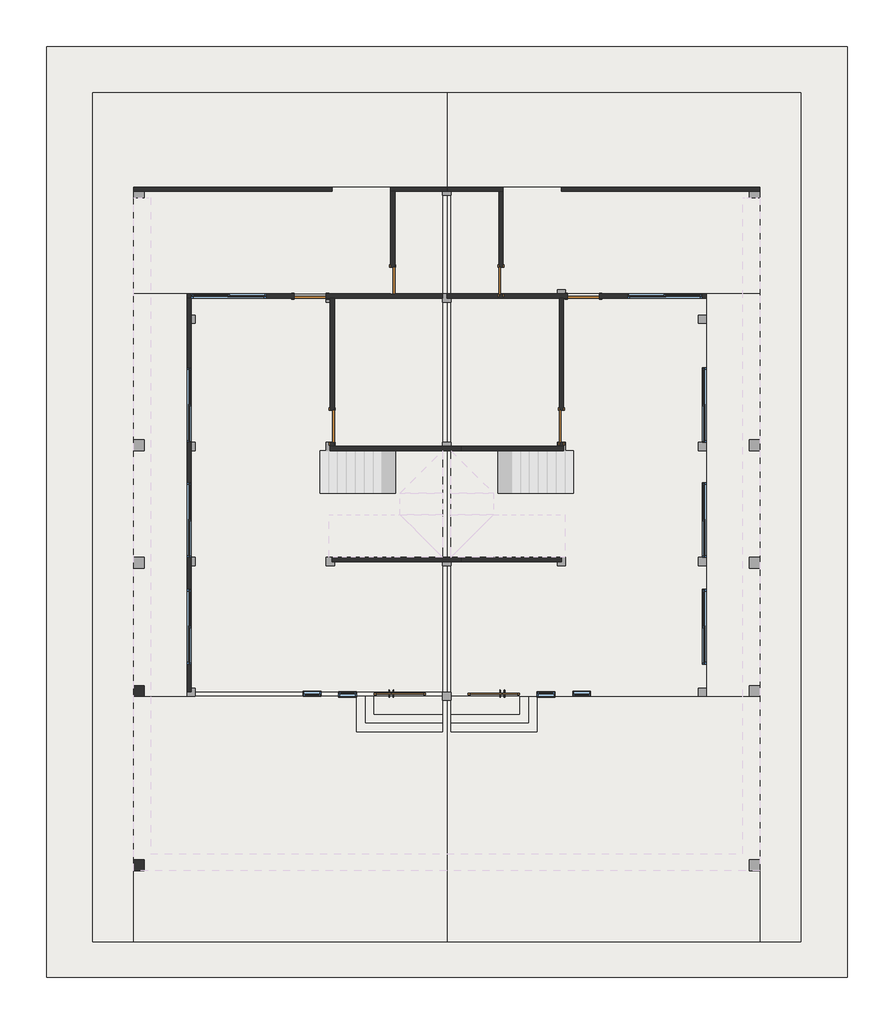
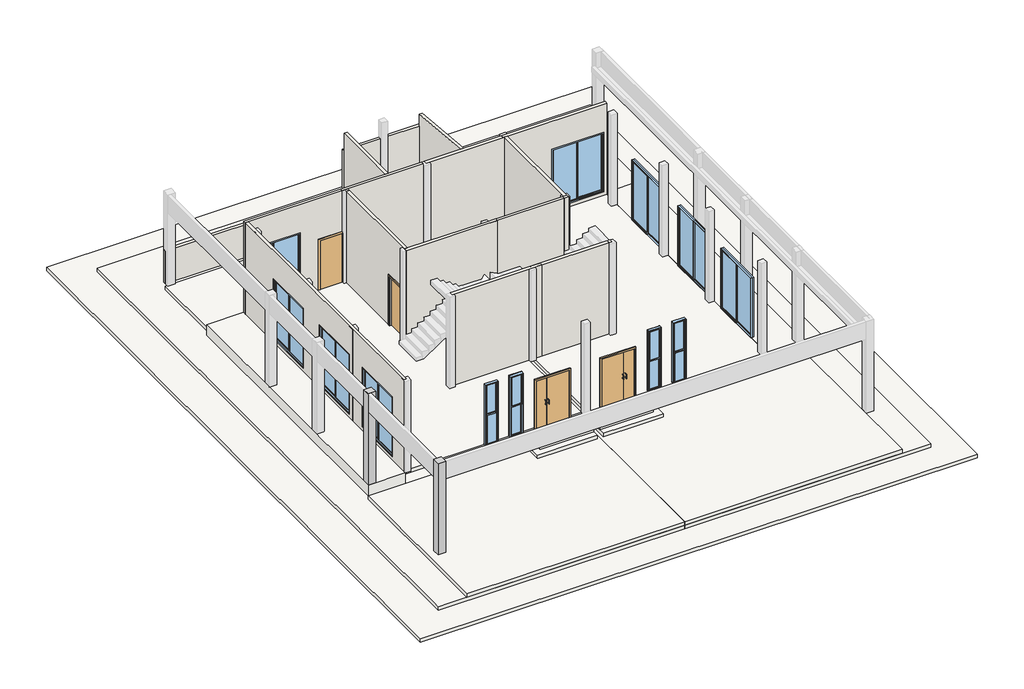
# One storey, part 1 of 2: 17 slabs, 15 walls, 12 windows, 8 doors, 2 columns.
"""IFC4 building model written with IfcOpenShell, lengths in millimetres."""

from ifc_helpers import new_model, si_unit, frame, origin, origin_with_axes, place, context, project, spatial, polyline, outline, extrude, faceted_brep, transform, mapped, element, save
from components import z1_a591984b, m1_9b42acbb, m1_203bd3fe, m2_84174246, m2_9d6c72a9, m3_b9aba31e, m3_11f5f102, c1_1183a144, c1_f42e9c25, c2_bbde2cf6, c2_9de38a0a

model = new_model("IFC4")

# Units and contexts
model_context = context("Model", 3, world=origin())
ifc_project = project(units=[si_unit("LENGTHUNIT", "METRE", prefix="MILLI")], contexts=[model_context])

# Site, building, storey
site = spatial("IfcSite", under=ifc_project)
building = spatial("IfcBuilding", under=site)
storey = spatial("IfcBuildingStorey", under=building, Name="标高 1", Elevation=0.0)

# Columns
placement = place(None, origin())
z1_shape = z1_a591984b(model_context)
element("IfcColumn", 1, ObjectType="混凝土 - 矩形 - 柱 : Z1", at=placement, inside=storey, context=model_context, shape_type="MappedRepresentation", body=[
    mapped(z1_shape, transform((-7795.3991115, -5078.5593818, 0.0), x_axis=(1.0, 0.0, 0.0), y_axis=(0.0, 1.0, 0.0), z_axis=(0.0, 0.0, 1.0))),
])
element("IfcColumn", 2, ObjectType="混凝土 - 矩形 - 柱 : Z1", at=placement, inside=storey, context=model_context, shape_type="MappedRepresentation", body=[
    mapped(z1_shape, transform((-7795.3991115, -178.5593818, 0.0), x_axis=(1.0, 0.0, 0.0), y_axis=(0.0, 1.0, 0.0), z_axis=(0.0, 0.0, 1.0))),
])

# Doors
m1_shape = m1_9b42acbb(model_context)
element("IfcDoor", 3, ObjectType="单扇 - 与墙齐 : M1", at=placement, inside=storey, context=model_context, shape_type="MappedRepresentation", body=[
    mapped(m1_shape, transform((-2365.3991115, 7251.4406182, 0.0), x_axis=(0.0, -1.0, 0.0), y_axis=(1.0, 0.0, 0.0), z_axis=(0.0, 0.0, 1.0))),
])
element("IfcDoor", 4, ObjectType="单扇 - 与墙齐 : M1", at=placement, inside=storey, context=model_context, shape_type="MappedRepresentation", body=[
    mapped(m1_shape, transform((4694.6008885, 10911.4406182, 0.0), x_axis=(-1.0, 0.0, 0.0), y_axis=(0.0, -1.0, 0.0), z_axis=(0.0, 0.0, 1.0))),
])
m1_2_shape = m1_203bd3fe(model_context)
element("IfcDoor", 5, ObjectType="单扇 - 与墙齐 : M1", at=placement, inside=storey, context=model_context, shape_type="MappedRepresentation", body=[
    mapped(m1_2_shape, transform((-2985.3991115, 10911.4406182, 0.0), x_axis=(1.0, 0.0, 0.0), y_axis=(0.0, 1.0, 0.0), z_axis=(0.0, 0.0, 1.0))),
])
element("IfcDoor", 6, ObjectType="单扇 - 与墙齐 : M1", at=placement, inside=storey, context=model_context, shape_type="MappedRepresentation", body=[
    mapped(m1_2_shape, transform((4074.6008885, 7251.4406182, 0.0), x_axis=(0.0, -1.0, 0.0), y_axis=(1.0, 0.0, 0.0), z_axis=(0.0, 0.0, 1.0))),
])
m2_shape = m2_84174246(model_context)
element("IfcDoor", 7, ObjectType="子母门 : M2", at=placement, inside=storey, context=model_context, shape_type="MappedRepresentation", body=[
    mapped(m2_shape, transform((-465.3991115, -268.5593818, 0.0), x_axis=(-1.0, 0.0, 0.0), y_axis=(0.0, -1.0, 0.0), z_axis=(0.0, 0.0, 1.0))),
])
m2_2_shape = m2_9d6c72a9(model_context)
element("IfcDoor", 8, ObjectType="子母门 : M2", at=placement, inside=storey, context=model_context, shape_type="MappedRepresentation", body=[
    mapped(m2_2_shape, transform((2174.6008885, -268.5593818, 0.0), x_axis=(1.0, 0.0, 0.0), y_axis=(0.0, 1.0, 0.0), z_axis=(0.0, 0.0, 1.0))),
])
m3_shape = m3_b9aba31e(model_context)
element("IfcDoor", 9, ObjectType="单扇 - 与墙齐 : M3", at=placement, inside=storey, context=model_context, shape_type="MappedRepresentation", body=[
    mapped(m3_shape, transform((-665.3991115, 11341.4406182, 0.0), x_axis=(0.0, -1.0, 0.0), y_axis=(1.0, 0.0, 0.0), z_axis=(0.0, 0.0, 1.0))),
])
m3_2_shape = m3_11f5f102(model_context)
element("IfcDoor", 10, ObjectType="单扇 - 与墙齐 : M3", at=placement, inside=storey, context=model_context, shape_type="MappedRepresentation", body=[
    mapped(m3_2_shape, transform((2374.6008885, 11341.4406182, 0.0), x_axis=(0.0, -1.0, 0.0), y_axis=(1.0, 0.0, 0.0), z_axis=(0.0, 0.0, 1.0))),
])

# Slabs
element("IfcSlab", 11, ObjectType="钢筋混凝土150", at=placement, inside=storey, context=model_context, shape_type="SweptSolid", body=[
    extrude(outline(polyline([(734.6008885, 10851.4406182), (734.6008885, -208.5593818), (-6325.3991115, -208.5593818), (-6325.3991115, 10851.4406182), (734.6008885, 10851.4406182)])), frame((0.0, 0.0, -150.0), z_axis=(0.0, 0.0, 1.0), x_axis=(1.0, 0.0, 0.0)), (0.0, 0.0, 1.0), 150.0),
])
element("IfcSlab", 12, ObjectType="钢筋混凝土450", at=placement, inside=storey, context=model_context, shape_type="SweptSolid", body=[
    extrude(outline(polyline([(-6445.3991115, 10971.4406182), (-6445.3991115, -328.5593818), (-7945.3991115, -328.5593818), (-7945.3991115, 10971.4406182), (-6445.3991115, 10971.4406182)])), frame((0.0, 0.0, -450.0), z_axis=(0.0, 0.0, 1.0), x_axis=(1.0, 0.0, 0.0)), (0.0, 0.0, 1.0), 450.0),
])
element("IfcSlab", 13, ObjectType="钢筋混凝土150", at=placement, inside=storey, context=model_context, shape_type="SweptSolid", body=[
    extrude(outline(polyline([(-2365.3991115, 13851.4406182), (-2365.3991115, 13971.4406182), (-725.3991115, 13971.4406182), (-725.3991115, 13851.4406182), (734.6008885, 13851.4406182), (734.6008885, 10971.4406182), (-7945.3991115, 10971.4406182), (-7945.3991115, 13851.4406182), (-2365.3991115, 13851.4406182)])), frame((0.0, 0.0, -250.0), z_axis=(0.0, 0.0, 1.0), x_axis=(1.0, 0.0, 0.0)), (0.0, 0.0, 1.0), 150.0),
])
element("IfcSlab", 14, ObjectType="钢筋混凝土150", at=placement, inside=storey, context=model_context, shape_type="SweptSolid", body=[
    extrude(outline(polyline([(-7945.3991115, -7228.5593818), (-7945.3991115, -328.5593818), (854.6008885, -328.5593818), (854.6008885, -7228.5593818), (-7945.3991115, -7228.5593818)])), frame((0.0, 0.0, -600.0), z_axis=(0.0, 0.0, 1.0), x_axis=(1.0, 0.0, 0.0)), (0.0, 0.0, 1.0), 150.0),
])
element("IfcSlab", 15, ObjectType="钢筋混凝土150", at=placement, inside=storey, context=model_context, shape_type="SweptSolid", body=[
    extrude(outline(polyline([(12104.6008885, 17921.4406182), (12104.6008885, -8228.5593818), (-10395.3991115, -8228.5593818), (-10395.3991115, 17921.4406182), (12104.6008885, 17921.4406182)])), frame((0.0, 0.0, -1050.0), z_axis=(0.0, 0.0, 1.0), x_axis=(1.0, 0.0, 0.0)), (0.0, 0.0, 1.0), 150.0),
])
element("IfcSlab", 16, ObjectType="钢筋混凝土150", at=placement, inside=storey, context=model_context, shape_type="Brep", body=[
    faceted_brep([(-9095.3991115, 16621.4406182, -750.0), (854.6008885, 16621.4406182, -750.0), (854.6008885, -7228.5593818, -750.0), (-9095.3991115, -7228.5593818, -750.0), (-9095.3991115, 16621.4406182, -600.0), (-9095.3991115, -7228.5593818, -600.0), (-7945.3991115, -7228.5593818, -600.0), (854.6008885, -7228.5593818, -600.0), (854.6008885, -328.5593818, -600.0), (854.6008885, 16621.4406182, -600.0)], [[[0, 1, 2, 3]], [[4, 5, 6, 7, 8, 9]], [[1, 0, 4, 9]], [[2, 1, 9, 8, 7]], [[3, 2, 7, 6, 5]], [[0, 3, 5, 4]]]),
])
element("IfcSlab", 17, ObjectType="钢筋混凝土150", at=placement, inside=storey, context=model_context, shape_type="SweptSolid", body=[
    extrude(outline(polyline([(974.6008885, 10971.4406182), (8154.6008885, 10971.4406182), (8154.6008885, -328.5593818), (974.6008885, -328.5593818), (974.6008885, 10971.4406182)])), frame((0.0, 0.0, -150.0), z_axis=(0.0, 0.0, 1.0), x_axis=(1.0, 0.0, 0.0)), (0.0, 0.0, 1.0), 150.0),
])
element("IfcSlab", 18, ObjectType="钢筋混凝土450", at=placement, inside=storey, context=model_context, shape_type="SweptSolid", body=[
    extrude(outline(polyline([(8154.6008885, 10971.4406182), (9654.6008885, 10971.4406182), (9654.6008885, -328.5593818), (8154.6008885, -328.5593818), (8154.6008885, 10971.4406182)])), frame((0.0, 0.0, -450.0), z_axis=(0.0, 0.0, 1.0), x_axis=(1.0, 0.0, 0.0)), (0.0, 0.0, 1.0), 450.0),
])
element("IfcSlab", 19, ObjectType="钢筋混凝土150", at=placement, inside=storey, context=model_context, shape_type="SweptSolid", body=[
    extrude(outline(polyline([(4074.6008885, 13851.4406182), (9654.6008885, 13851.4406182), (9654.6008885, 10971.4406182), (974.6008885, 10971.4406182), (974.6008885, 13851.4406182), (2434.6008885, 13851.4406182), (2434.6008885, 13971.4406182), (4074.6008885, 13971.4406182), (4074.6008885, 13851.4406182)])), frame((0.0, 0.0, -250.0), z_axis=(0.0, 0.0, 1.0), x_axis=(1.0, 0.0, 0.0)), (0.0, 0.0, 1.0), 150.0),
])
element("IfcSlab", 20, ObjectType="钢筋混凝土150", at=placement, inside=storey, context=model_context, shape_type="SweptSolid", body=[
    extrude(outline(polyline([(9654.6008885, -7228.5593818), (854.6008885, -7228.5593818), (854.6008885, -328.5593818), (9654.6008885, -328.5593818), (9654.6008885, -7228.5593818)])), frame((0.0, 0.0, -600.0), z_axis=(0.0, 0.0, 1.0), x_axis=(1.0, 0.0, 0.0)), (0.0, 0.0, 1.0), 150.0),
])
element("IfcSlab", 21, ObjectType="钢筋混凝土150", at=placement, inside=storey, context=model_context, shape_type="Brep", body=[
    faceted_brep([(10804.6008885, 16621.4406182, -750.0), (10804.6008885, -7228.5593818, -750.0), (854.6008885, -7228.5593818, -750.0), (854.6008885, 16621.4406182, -750.0), (10804.6008885, 16621.4406182, -600.0), (854.6008885, 16621.4406182, -600.0), (854.6008885, -328.5593818, -600.0), (854.6008885, -7228.5593818, -600.0), (9654.6008885, -7228.5593818, -600.0), (10804.6008885, -7228.5593818, -600.0)], [[[0, 1, 2, 3]], [[4, 5, 6, 7, 8, 9]], [[0, 3, 5, 4]], [[3, 2, 7, 6, 5]], [[2, 1, 9, 8, 7]], [[1, 0, 4, 9]]]),
])
element("IfcSlab", 22, ObjectType="室外台阶150", at=placement, inside=storey, context=model_context, shape_type="Brep", body=[
    faceted_brep([(734.6008885, -328.5593818, -300.0), (734.6008885, -1078.5593818, -300.0), (-1435.3991115, -1078.5593818, -300.0), (-1435.3991115, -328.5593818, -300.0), (734.6008885, -328.5593818, -150.0), (-1185.3991115, -328.5593818, -150.0), (-1435.3991115, -328.5593818, -150.0), (-1435.3991115, -1078.5593818, -150.0), (734.6008885, -1078.5593818, -150.0), (734.6008885, -828.5593818, -150.0)], [[[0, 1, 2, 3]], [[4, 5, 6, 7, 8, 9]], [[1, 0, 4, 9, 8]], [[2, 1, 8, 7]], [[3, 2, 7, 6]], [[0, 3, 6, 5, 4]]]),
])
element("IfcSlab", 23, ObjectType="室外台阶150", at=placement, inside=storey, context=model_context, shape_type="Brep", body=[
    faceted_brep([(734.6008885, -328.5593818, -450.0), (734.6008885, -1328.5593818, -450.0), (-1685.3991115, -1328.5593818, -450.0), (-1685.3991115, -328.5593818, -450.0), (734.6008885, -328.5593818, -300.0), (-1435.3991115, -328.5593818, -300.0), (-1685.3991115, -328.5593818, -300.0), (-1685.3991115, -1328.5593818, -300.0), (734.6008885, -1328.5593818, -300.0), (734.6008885, -1078.5593818, -300.0)], [[[0, 1, 2, 3]], [[4, 5, 6, 7, 8, 9]], [[1, 0, 4, 9, 8]], [[2, 1, 8, 7]], [[3, 2, 7, 6]], [[0, 3, 6, 5, 4]]]),
])
element("IfcSlab", 24, ObjectType="室外台阶150", at=placement, inside=storey, context=model_context, shape_type="SweptSolid", body=[
    extrude(outline(polyline([(734.6008885, -328.5593818), (734.6008885, -828.5593818), (-1185.3991115, -828.5593818), (-1185.3991115, -328.5593818), (734.6008885, -328.5593818)])), frame((0.0, 0.0, -150.0), z_axis=(0.0, 0.0, 1.0), x_axis=(1.0, 0.0, 0.0)), (0.0, 0.0, 1.0), 150.0),
])
element("IfcSlab", 25, ObjectType="室外台阶150", at=placement, inside=storey, context=model_context, shape_type="Brep", body=[
    faceted_brep([(974.6008885, -328.5593818, -300.0), (3144.6008885, -328.5593818, -300.0), (3144.6008885, -1078.5593818, -300.0), (974.6008885, -1078.5593818, -300.0), (974.6008885, -328.5593818, -150.0), (974.6008885, -828.5593818, -150.0), (974.6008885, -1078.5593818, -150.0), (3144.6008885, -1078.5593818, -150.0), (3144.6008885, -328.5593818, -150.0), (2894.6008885, -328.5593818, -150.0)], [[[0, 1, 2, 3]], [[4, 5, 6, 7, 8, 9]], [[0, 3, 6, 5, 4]], [[3, 2, 7, 6]], [[2, 1, 8, 7]], [[1, 0, 4, 9, 8]]]),
])
element("IfcSlab", 26, ObjectType="室外台阶150", at=placement, inside=storey, context=model_context, shape_type="Brep", body=[
    faceted_brep([(974.6008885, -328.5593818, -450.0), (3394.6008885, -328.5593818, -450.0), (3394.6008885, -1328.5593818, -450.0), (974.6008885, -1328.5593818, -450.0), (974.6008885, -328.5593818, -300.0), (974.6008885, -1078.5593818, -300.0), (974.6008885, -1328.5593818, -300.0), (3394.6008885, -1328.5593818, -300.0), (3394.6008885, -328.5593818, -300.0), (3144.6008885, -328.5593818, -300.0)], [[[0, 1, 2, 3]], [[4, 5, 6, 7, 8, 9]], [[0, 3, 6, 5, 4]], [[3, 2, 7, 6]], [[2, 1, 8, 7]], [[1, 0, 4, 9, 8]]]),
])
element("IfcSlab", 27, ObjectType="室外台阶150", at=placement, inside=storey, context=model_context, shape_type="SweptSolid", body=[
    extrude(outline(polyline([(974.6008885, -328.5593818), (2894.6008885, -328.5593818), (2894.6008885, -828.5593818), (974.6008885, -828.5593818), (974.6008885, -328.5593818)])), frame((0.0, 0.0, -150.0), z_axis=(0.0, 0.0, 1.0), x_axis=(1.0, 0.0, 0.0)), (0.0, 0.0, 1.0), 150.0),
])

# Walls
element("IfcWall", 28, ObjectType="考试墙体120", at=placement, inside=storey, context=model_context, shape_type="Brep", body=[
    faceted_brep([(734.6008885, 10851.4406182, 3900.0), (-2305.3991115, 10851.4406182, 3900.0), (-2425.3991115, 10851.4406182, 3900.0), (-6325.3991115, 10851.4406182, 3900.0), (-6445.3991115, 10851.4406182, 3900.0), (-6445.3991115, 10851.4406182, 0.0), (-6325.3991115, 10851.4406182, 0.0), (-3435.3991115, 10851.4406182, 0.0), (-3435.3991115, 10851.4406182, 2100.0), (-2535.3991115, 10851.4406182, 2100.0), (-2535.3991115, 10851.4406182, 0.0), (-2425.3991115, 10851.4406182, 0.0), (-2305.3991115, 10851.4406182, 0.0), (734.6008885, 10851.4406182, 0.0), (-4225.3991115, 10851.4406182, 2700.0), (-4225.3991115, 10851.4406182, 150.0), (-6325.3991115, 10851.4406182, 150.0), (-6325.3991115, 10851.4406182, 2700.0), (-6445.3991115, 10971.4406182, 3900.0), (-725.3991115, 10971.4406182, 3900.0), (-605.3991115, 10971.4406182, 3900.0), (734.6008885, 10971.4406182, 3900.0), (734.6008885, 10971.4406182, 0.0), (-605.3991115, 10971.4406182, 0.0), (-605.3991115, 10971.4406182, 2000.0), (-725.3991115, 10971.4406182, 2000.0), (-725.3991115, 10971.4406182, 0.0), (-2535.3991115, 10971.4406182, 0.0), (-2535.3991115, 10971.4406182, 2100.0), (-3435.3991115, 10971.4406182, 2100.0), (-3435.3991115, 10971.4406182, 0.0), (-6445.3991115, 10971.4406182, 0.0), (-4225.3991115, 10971.4406182, 2700.0), (-6325.3991115, 10971.4406182, 2700.0), (-6325.3991115, 10971.4406182, 150.0), (-4225.3991115, 10971.4406182, 150.0), (-725.3991115, 10966.4406182, 0.0), (-605.3991115, 10966.4406182, 0.0), (-725.3991115, 10966.4406182, 2000.0), (-605.3991115, 10966.4406182, 2000.0)], [[[0, 1, 2, 3, 4, 5, 6, 7, 8, 9, 10, 11, 12, 13], [14, 15, 16, 17]], [[18, 19, 20, 21, 22, 23, 24, 25, 26, 27, 28, 29, 30, 31], [32, 33, 34, 35]], [[5, 31, 30, 7, 6]], [[10, 27, 26, 36, 37, 23, 22, 13, 12, 11]], [[4, 3, 2, 1, 0, 21, 20, 19, 18]], [[5, 4, 18, 31]], [[15, 14, 32, 35]], [[16, 15, 35, 34]], [[17, 16, 34, 33]], [[14, 17, 33, 32]], [[28, 27, 10, 9]], [[29, 28, 9, 8]], [[30, 29, 8, 7]], [[38, 36, 26, 25]], [[37, 39, 24, 23]], [[36, 38, 39, 37]], [[39, 38, 25, 24]], [[0, 13, 22, 21]]]),
])
element("IfcWall", 29, ObjectType="考试墙体120", at=placement, inside=storey, context=model_context, shape_type="SweptSolid", body=[
    extrude(outline(polyline([(-208.5593818, 0.0), (-208.5593818, 3900.0), (10851.4406182, 3900.0), (10851.4406182, 0.0), (-208.5593818, 0.0)]), holes=[polyline([(571.4406182, 2700.0), (571.4406182, 150.0), (2671.4406182, 150.0), (2671.4406182, 2700.0), (571.4406182, 2700.0)]), polyline([(3571.4406182, 2700.0), (3571.4406182, 150.0), (5671.4406182, 150.0), (5671.4406182, 2700.0), (3571.4406182, 2700.0)]), polyline([(6801.4406182, 2700.0), (6801.4406182, 150.0), (8901.4406182, 150.0), (8901.4406182, 2700.0), (6801.4406182, 2700.0)])]), frame((-6445.3991115, 0.0, 0.0), z_axis=(1.0, 0.0, 0.0), x_axis=(0.0, 1.0, 0.0)), (0.0, 0.0, 1.0), 120.0),
])
element("IfcWall", 30, ObjectType="考试墙体120", at=placement, inside=storey, context=model_context, shape_type="Brep", body=[
    faceted_brep([(1254.6008885, 6691.4406182, 0.0), (854.6008885, 6691.4406182, 0.0), (734.6008885, 6691.4406182, 0.0), (-2305.3991115, 6691.4406182, 0.0), (-2425.3991115, 6691.4406182, 0.0), (-2425.3991115, 6691.4406182, 3900.0), (-2305.3991115, 6691.4406182, 3900.0), (734.6008885, 6691.4406182, 3900.0), (854.6008885, 6691.4406182, 3900.0), (1254.6008885, 6691.4406182, 3900.0), (1254.6008885, 6571.4406182, 0.0), (1254.6008885, 6571.4406182, 3900.0), (854.6008885, 6571.4406182, 3900.0), (734.6008885, 6571.4406182, 3900.0), (-2425.3991115, 6571.4406182, 3900.0), (-2425.3991115, 6571.4406182, 0.0), (734.6008885, 6571.4406182, 0.0), (854.6008885, 6571.4406182, 0.0)], [[[0, 1, 2, 3, 4, 5, 6, 7, 8, 9]], [[10, 11, 12, 13, 14, 15, 16, 17]], [[4, 3, 2, 1, 0, 10, 17, 16, 15]], [[9, 8, 7, 6, 5, 14, 13, 12, 11]], [[0, 9, 11, 10]], [[5, 4, 15, 14]]]),
])
element("IfcWall", 31, ObjectType="考试墙体120", at=placement, inside=storey, context=model_context, shape_type="SweptSolid", body=[
    extrude(outline(polyline([(6801.4406182, 2100.0), (6801.4406182, 0.0), (6691.4406182, 0.0), (6691.4406182, 3900.0), (10851.4406182, 3900.0), (10851.4406182, 0.0), (7701.4406182, 0.0), (7701.4406182, 2100.0), (6801.4406182, 2100.0)])), frame((-2425.3991115, 0.0, 0.0), z_axis=(1.0, 0.0, 0.0), x_axis=(0.0, 1.0, 0.0)), (0.0, 0.0, 1.0), 120.0),
])
element("IfcWall", 32, ObjectType="考试墙体120", at=placement, inside=storey, context=model_context, shape_type="Brep", body=[
    faceted_brep([(1254.6008885, 3571.4406182, 0.0), (854.6008885, 3571.4406182, 0.0), (734.6008885, 3571.4406182, 0.0), (-2365.3991115, 3571.4406182, 0.0), (-2365.3991115, 3571.4406182, 3900.0), (734.6008885, 3571.4406182, 3900.0), (854.6008885, 3571.4406182, 3900.0), (1254.6008885, 3571.4406182, 3900.0), (1254.6008885, 3451.4406182, 0.0), (1254.6008885, 3451.4406182, 3900.0), (854.6008885, 3451.4406182, 3900.0), (734.6008885, 3451.4406182, 3900.0), (-2365.3991115, 3451.4406182, 3900.0), (-2365.3991115, 3451.4406182, 0.0), (734.6008885, 3451.4406182, 0.0), (854.6008885, 3451.4406182, 0.0)], [[[0, 1, 2, 3, 4, 5, 6, 7]], [[8, 9, 10, 11, 12, 13, 14, 15]], [[3, 2, 1, 0, 8, 15, 14, 13]], [[4, 3, 13, 12]], [[7, 6, 5, 4, 12, 11, 10, 9]], [[0, 7, 9, 8]]]),
])
element("IfcWall", 33, ObjectType="考试墙体120", at=placement, inside=storey, context=model_context, shape_type="Brep", body=[
    faceted_brep([(-725.3991115, 13851.4406182, 0.0), (-605.3991115, 13851.4406182, 0.0), (854.6008885, 13851.4406182, 0.0), (854.6008885, 13851.4406182, 3150.0), (-725.3991115, 13851.4406182, 3150.0), (-725.3991115, 13971.4406182, 0.0), (-725.3991115, 13971.4406182, 3150.0), (854.6008885, 13971.4406182, 3150.0), (854.6008885, 13971.4406182, 0.0)], [[[0, 1, 2, 3, 4]], [[5, 6, 7, 8]], [[2, 1, 0, 5, 8]], [[4, 3, 7, 6]], [[0, 4, 6, 5]], [[3, 2, 8, 7]]]),
])
element("IfcWall", 34, ObjectType="考试墙体120", at=placement, inside=storey, context=model_context, shape_type="Brep", body=[
    faceted_brep([(-605.3991115, 13851.4406182, 3900.0), (-605.3991115, 10971.4406182, 3900.0), (-605.3991115, 10971.4406182, 2000.0), (-605.3991115, 11716.4406182, 2000.0), (-605.3991115, 11716.4406182, 0.0), (-605.3991115, 13851.4406182, 0.0), (-725.3991115, 10971.4406182, 3900.0), (-725.3991115, 13851.4406182, 3900.0), (-725.3991115, 13851.4406182, 3150.0), (-725.3991115, 13851.4406182, 0.0), (-725.3991115, 11716.4406182, 0.0), (-725.3991115, 11716.4406182, 2000.0), (-725.3991115, 10971.4406182, 2000.0)], [[[0, 1, 2, 3, 4, 5]], [[6, 7, 8, 9, 10, 11, 12]], [[9, 5, 4, 10]], [[1, 0, 7, 6]], [[0, 5, 9, 8, 7]], [[1, 6, 12, 2]], [[11, 3, 2, 12]], [[3, 11, 10, 4]]]),
])
element("IfcWall", 35, ObjectType="考试墙体120", at=placement, inside=storey, context=model_context, shape_type="SweptSolid", body=[
    extrude(outline(polyline([(-2365.3991115, 13851.4406182), (-7945.3991115, 13851.4406182), (-7945.3991115, 13971.4406182), (-2365.3991115, 13971.4406182), (-2365.3991115, 13851.4406182)])), origin_with_axes(), (0.0, 0.0, 1.0), 1400.0),
])
element("IfcWall", 36, ObjectType="考试墙体120", at=placement, inside=storey, context=model_context, shape_type="Brep", body=[
    faceted_brep([(854.6008885, 10971.4406182, 3900.0), (8154.6008885, 10971.4406182, 3900.0), (8154.6008885, 10971.4406182, 0.0), (5144.6008885, 10971.4406182, 0.0), (5144.6008885, 10971.4406182, 2100.0), (4244.6008885, 10971.4406182, 2100.0), (4244.6008885, 10971.4406182, 0.0), (2434.6008885, 10971.4406182, 0.0), (2434.6008885, 10971.4406182, 2000.0), (2314.6008885, 10971.4406182, 2000.0), (2314.6008885, 10971.4406182, 0.0), (854.6008885, 10971.4406182, 0.0), (5934.6008885, 10971.4406182, 2700.0), (5934.6008885, 10971.4406182, 150.0), (8034.6008885, 10971.4406182, 150.0), (8034.6008885, 10971.4406182, 2700.0), (8154.6008885, 10851.4406182, 3900.0), (8034.6008885, 10851.4406182, 3900.0), (4134.6008885, 10851.4406182, 3900.0), (4014.6008885, 10851.4406182, 3900.0), (854.6008885, 10851.4406182, 3900.0), (854.6008885, 10851.4406182, 0.0), (4014.6008885, 10851.4406182, 0.0), (4134.6008885, 10851.4406182, 0.0), (4244.6008885, 10851.4406182, 0.0), (4244.6008885, 10851.4406182, 2100.0), (5144.6008885, 10851.4406182, 2100.0), (5144.6008885, 10851.4406182, 0.0), (8154.6008885, 10851.4406182, 0.0), (5934.6008885, 10851.4406182, 2700.0), (8034.6008885, 10851.4406182, 2700.0), (8034.6008885, 10851.4406182, 150.0), (5934.6008885, 10851.4406182, 150.0), (2314.6008885, 10966.4406182, 0.0), (2434.6008885, 10966.4406182, 0.0), (2314.6008885, 10966.4406182, 2000.0), (2434.6008885, 10966.4406182, 2000.0)], [[[0, 1, 2, 3, 4, 5, 6, 7, 8, 9, 10, 11], [12, 13, 14, 15]], [[16, 17, 18, 19, 20, 21, 22, 23, 24, 25, 26, 27, 28], [29, 30, 31, 32]], [[2, 28, 27, 3]], [[6, 24, 23, 22, 21, 11, 10, 33, 34, 7]], [[1, 0, 20, 19, 18, 17, 16]], [[2, 1, 16, 28]], [[13, 12, 29, 32]], [[14, 13, 32, 31]], [[15, 14, 31, 30]], [[12, 15, 30, 29]], [[25, 24, 6, 5]], [[26, 25, 5, 4]], [[27, 26, 4, 3]], [[35, 33, 10, 9]], [[34, 36, 8, 7]], [[33, 35, 36, 34]], [[36, 35, 9, 8]], [[0, 11, 21, 20]]]),
])
element("IfcWall", 37, ObjectType="考试墙体120", at=placement, inside=storey, context=model_context, shape_type="Brep", body=[
    faceted_brep([(854.6008885, 6571.4406182, 0.0), (4134.6008885, 6571.4406182, 0.0), (4134.6008885, 6571.4406182, 3900.0), (854.6008885, 6571.4406182, 3900.0), (854.6008885, 6691.4406182, 0.0), (854.6008885, 6691.4406182, 3900.0), (4014.6008885, 6691.4406182, 3900.0), (4134.6008885, 6691.4406182, 3900.0), (4134.6008885, 6691.4406182, 0.0), (4014.6008885, 6691.4406182, 0.0)], [[[0, 1, 2, 3]], [[4, 5, 6, 7, 8, 9]], [[1, 0, 4, 9, 8]], [[3, 2, 7, 6, 5]], [[2, 1, 8, 7]], [[0, 3, 5, 4]]]),
])
element("IfcWall", 38, ObjectType="考试墙体120", at=placement, inside=storey, context=model_context, shape_type="SweptSolid", body=[
    extrude(outline(polyline([(6801.4406182, 2100.0), (6801.4406182, 0.0), (6691.4406182, 0.0), (6691.4406182, 3900.0), (10851.4406182, 3900.0), (10851.4406182, 0.0), (7701.4406182, 0.0), (7701.4406182, 2100.0), (6801.4406182, 2100.0)])), frame((4014.6008885, 0.0, 0.0), z_axis=(1.0, 0.0, 0.0), x_axis=(0.0, 1.0, 0.0)), (0.0, 0.0, 1.0), 120.0),
])
element("IfcWall", 39, ObjectType="考试墙体120", at=placement, inside=storey, context=model_context, shape_type="SweptSolid", body=[
    extrude(outline(polyline([(4074.6008885, 3451.4406182), (854.6008885, 3451.4406182), (854.6008885, 3571.4406182), (4074.6008885, 3571.4406182), (4074.6008885, 3451.4406182)])), origin_with_axes(), (0.0, 0.0, 1.0), 3900.0),
])
element("IfcWall", 40, ObjectType="考试墙体120", at=placement, inside=storey, context=model_context, shape_type="Brep", body=[
    faceted_brep([(2434.6008885, 13971.4406182, 0.0), (854.6008885, 13971.4406182, 0.0), (854.6008885, 13971.4406182, 3150.0), (2434.6008885, 13971.4406182, 3150.0), (2434.6008885, 13851.4406182, 0.0), (2434.6008885, 13851.4406182, 3150.0), (854.6008885, 13851.4406182, 3150.0), (854.6008885, 13851.4406182, 0.0), (2314.6008885, 13851.4406182, 0.0)], [[[0, 1, 2, 3]], [[4, 5, 6, 7, 8]], [[1, 0, 4, 8, 7]], [[3, 2, 6, 5]], [[0, 3, 5, 4]], [[2, 1, 7, 6]]]),
])
element("IfcWall", 41, ObjectType="考试墙体120", at=placement, inside=storey, context=model_context, shape_type="Brep", body=[
    faceted_brep([(2434.6008885, 13851.4406182, 0.0), (2434.6008885, 13851.4406182, 3150.0), (2434.6008885, 13851.4406182, 3648.032649), (2434.6008885, 10971.4406182, 3900.0), (2434.6008885, 10971.4406182, 2000.0), (2434.6008885, 11716.4406182, 2000.0), (2434.6008885, 11716.4406182, 0.0), (2314.6008885, 13851.4406182, 3648.032649), (2314.6008885, 13851.4406182, 0.0), (2314.6008885, 11716.4406182, 0.0), (2314.6008885, 11716.4406182, 2000.0), (2314.6008885, 10971.4406182, 2000.0), (2314.6008885, 10971.4406182, 3900.0)], [[[0, 1, 2, 3, 4, 5, 6]], [[7, 8, 9, 10, 11, 12]], [[8, 0, 6, 9]], [[2, 1, 0, 8, 7]], [[3, 12, 11, 4]], [[10, 5, 4, 11]], [[5, 10, 9, 6]], [[3, 2, 7, 12]]]),
])
element("IfcWall", 42, ObjectType="考试墙体120", at=placement, inside=storey, context=model_context, shape_type="SweptSolid", body=[
    extrude(outline(polyline([(4074.6008885, 13971.4406182), (9654.6008885, 13971.4406182), (9654.6008885, 13851.4406182), (4074.6008885, 13851.4406182), (4074.6008885, 13971.4406182)])), origin_with_axes(), (0.0, 0.0, 1.0), 1400.0),
])

# Windows
c1_shape = c1_1183a144(model_context)
element("IfcWindow", 43, ObjectType="上下拉窗1 : C1", at=placement, inside=storey, context=model_context, shape_type="MappedRepresentation", body=[
    mapped(c1_shape, transform((-2935.3991115, -268.3209215, -900.0), x_axis=(1.0, 0.0, 0.0), y_axis=(0.0, 1.0, 0.0), z_axis=(0.0, 0.0, 1.0))),
])
element("IfcWindow", 44, ObjectType="上下拉窗1 : C1", at=placement, inside=storey, context=model_context, shape_type="MappedRepresentation", body=[
    mapped(c1_shape, transform((-1935.3991115, -268.797842, -900.0), x_axis=(-1.0, 0.0, 0.0), y_axis=(0.0, -1.0, 0.0), z_axis=(0.0, 0.0, 1.0))),
])
c1_2_shape = c1_f42e9c25(model_context)
element("IfcWindow", 45, ObjectType="上下拉窗1 : C1", at=placement, inside=storey, context=model_context, shape_type="MappedRepresentation", body=[
    mapped(c1_2_shape, transform((4644.6008885, -268.3209215, -900.0), x_axis=(-1.0, 0.0, 0.0), y_axis=(0.0, -1.0, 0.0), z_axis=(0.0, 0.0, 1.0))),
])
element("IfcWindow", 46, ObjectType="上下拉窗1 : C1", at=placement, inside=storey, context=model_context, shape_type="MappedRepresentation", body=[
    mapped(c1_2_shape, transform((3644.6008885, -268.797842, -900.0), x_axis=(1.0, 0.0, 0.0), y_axis=(0.0, 1.0, 0.0), z_axis=(0.0, 0.0, 1.0))),
])
c2_shape = c2_bbde2cf6(model_context)
element("IfcWindow", 47, ObjectType="推拉窗6 : C2", at=placement, inside=storey, context=model_context, shape_type="MappedRepresentation", body=[
    mapped(c2_shape, transform((-6318.525674, 1630.9656182, -450.0), x_axis=(0.0, -1.0, 0.0), y_axis=(1.0, 0.0, 0.0), z_axis=(0.0, 0.0, 1.0))),
])
element("IfcWindow", 48, ObjectType="推拉窗6 : C2", at=placement, inside=storey, context=model_context, shape_type="MappedRepresentation", body=[
    mapped(c2_shape, transform((-6318.525674, 4630.9656182, -450.0), x_axis=(0.0, -1.0, 0.0), y_axis=(1.0, 0.0, 0.0), z_axis=(0.0, 0.0, 1.0))),
])
element("IfcWindow", 49, ObjectType="推拉窗6 : C2", at=placement, inside=storey, context=model_context, shape_type="MappedRepresentation", body=[
    mapped(c2_shape, transform((-6318.525674, 7860.9656182, -450.0), x_axis=(0.0, -1.0, 0.0), y_axis=(1.0, 0.0, 0.0), z_axis=(0.0, 0.0, 1.0))),
])
element("IfcWindow", 50, ObjectType="推拉窗6 : C2", at=placement, inside=storey, context=model_context, shape_type="MappedRepresentation", body=[
    mapped(c2_shape, transform((-5284.9241115, 10978.3140557, -450.0), x_axis=(1.0, 0.0, 0.0), y_axis=(0.0, 1.0, 0.0), z_axis=(0.0, 0.0, 1.0))),
])
c2_2_shape = c2_9de38a0a(model_context)
element("IfcWindow", 51, ObjectType="推拉窗6 : C2", at=placement, inside=storey, context=model_context, shape_type="MappedRepresentation", body=[
    mapped(c2_2_shape, transform((8027.727451, 1630.9656182, -450.0), x_axis=(0.0, -1.0, 0.0), y_axis=(1.0, 0.0, 0.0), z_axis=(0.0, 0.0, 1.0))),
])
element("IfcWindow", 52, ObjectType="推拉窗6 : C2", at=placement, inside=storey, context=model_context, shape_type="MappedRepresentation", body=[
    mapped(c2_2_shape, transform((8027.727451, 4630.9656182, -450.0), x_axis=(0.0, -1.0, 0.0), y_axis=(1.0, 0.0, 0.0), z_axis=(0.0, 0.0, 1.0))),
])
element("IfcWindow", 53, ObjectType="推拉窗6 : C2", at=placement, inside=storey, context=model_context, shape_type="MappedRepresentation", body=[
    mapped(c2_2_shape, transform((8027.727451, 7860.9656182, -450.0), x_axis=(0.0, -1.0, 0.0), y_axis=(1.0, 0.0, 0.0), z_axis=(0.0, 0.0, 1.0))),
])
element("IfcWindow", 54, ObjectType="推拉窗6 : C2", at=placement, inside=storey, context=model_context, shape_type="MappedRepresentation", body=[
    mapped(c2_2_shape, transform((6994.1258885, 10978.3140557, -450.0), x_axis=(-1.0, 0.0, 0.0), y_axis=(0.0, -1.0, 0.0), z_axis=(0.0, 0.0, 1.0))),
])

save(model, "model.ifc")
